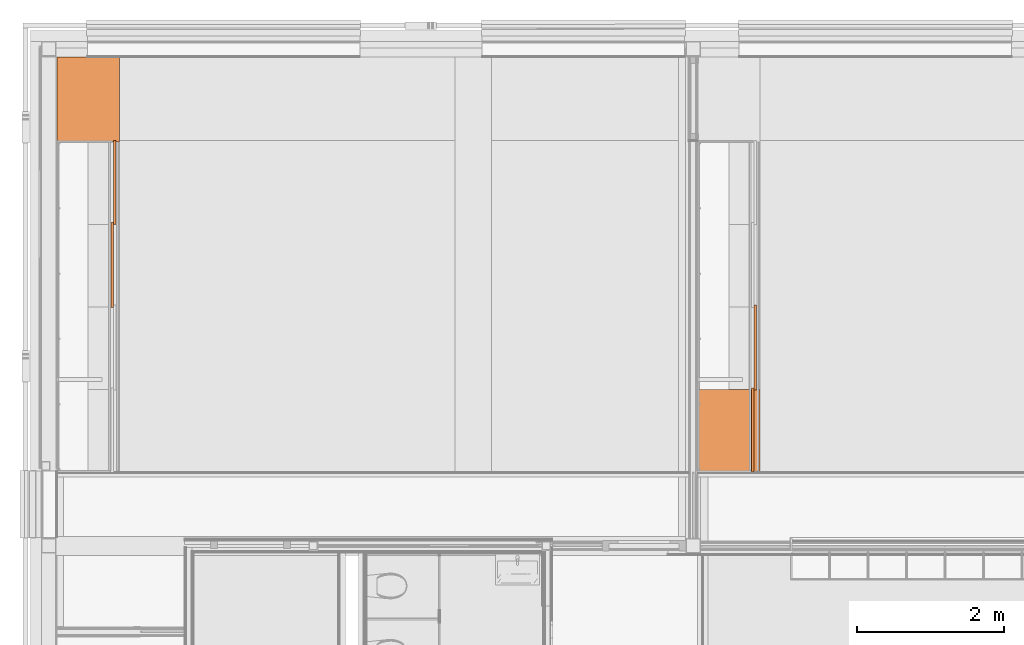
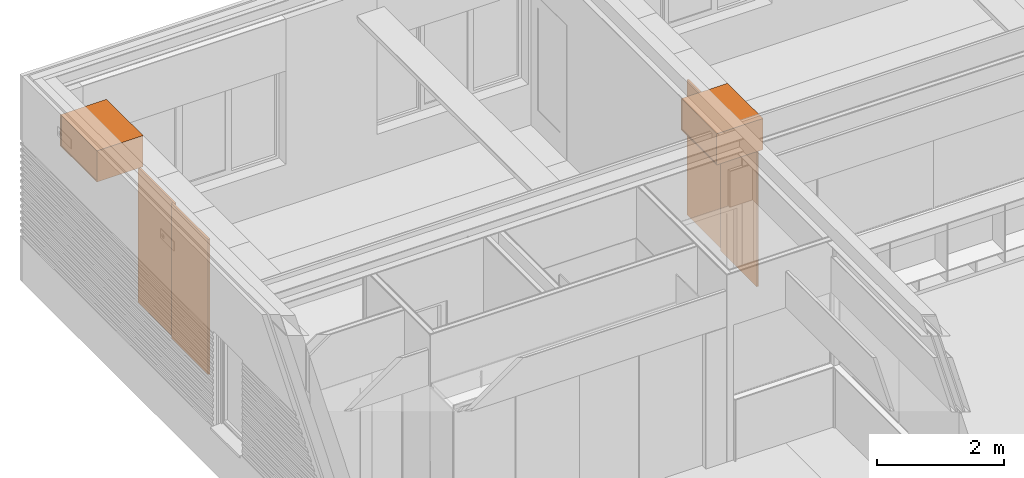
# One storey, part 122 of 137: 6 proxies.
"""IFC2X3 building model written with IfcOpenShell, lengths in millimetres."""

from ifc_helpers import new_model, entity, si_unit, converted_unit, derived_unit, money_unit, direction, frame, origin_with_axes, place, context, subcontext, project, spatial, faceted_brep, source, transform, mapped, type_object, type_shapes, element, save


model = new_model("IFC2X3")

# Units and contexts
model_context = context("Model", 3, precision=0.01, world=origin_with_axes(), true_north=direction((0.0, 1.0)))
body_context = subcontext(model_context, "Body", "Model", "MODEL_VIEW")
ifc_project = project(units=[si_unit("LENGTHUNIT", "METRE", prefix="MILLI"), si_unit("AREAUNIT", "SQUARE_METRE"), si_unit("VOLUMEUNIT", "CUBIC_METRE"), converted_unit("PLANEANGLEUNIT", "DEGREE", entity("IfcPlaneAngleMeasure", 0.0174532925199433), si_unit("PLANEANGLEUNIT", "RADIAN"), dimensions=[0, 0, 0, 0, 0, 0, 0]), money_unit("EUR"), converted_unit("TIMEUNIT", "Year", entity("IfcTimeMeasure", 31556926.0), si_unit("TIMEUNIT", "SECOND"), dimensions=[0, 0, 1, 0, 0, 0, 0]), si_unit("MASSUNIT", "GRAM", prefix="KILO"), si_unit("THERMODYNAMICTEMPERATUREUNIT", "DEGREE_CELSIUS"), si_unit("LUMINOUSINTENSITYUNIT", "LUMEN"), si_unit("ENERGYUNIT", "JOULE", prefix="MEGA"), derived_unit("THERMALCONDUCTANCEUNIT", [(si_unit("POWERUNIT", "WATT"), 1), (si_unit("LENGTHUNIT", "METRE"), -1), (si_unit("THERMODYNAMICTEMPERATUREUNIT", "KELVIN"), -1)]), derived_unit("SPECIFICHEATCAPACITYUNIT", [(si_unit("ENERGYUNIT", "JOULE"), 1), (si_unit("MASSUNIT", "GRAM", prefix="KILO"), -1), (si_unit("THERMODYNAMICTEMPERATUREUNIT", "KELVIN"), -1)]), derived_unit("MASSDENSITYUNIT", [(si_unit("MASSUNIT", "GRAM", prefix="KILO"), 1), (si_unit("VOLUMEUNIT", "CUBIC_METRE"), -1)])], contexts=[model_context])

# Site, building, storey
site_placement = place(None, origin_with_axes())
site = spatial("IfcSite", under=ifc_project, at=site_placement, Name="Site", CompositionType="ELEMENT")
building_placement = place(site_placement, origin_with_axes())
building = spatial("IfcBuilding", under=site, at=building_placement, Name="Naam gebouw", CompositionType="ELEMENT")
storey_placement = place(building_placement, frame((0.0, 0.0, 3960.0), z_axis=(0.0, 0.0, 1.0), x_axis=(1.0, 0.0, 0.0)))
storey = spatial("IfcBuildingStorey", under=building, at=storey_placement, Name="1e verdieping", CompositionType="ELEMENT", Elevation=3960.0)

# Proxies
building_element_proxy_type_1 = type_object("IfcBuildingElementProxyType", Name="Onderkast recht 26", PredefinedType="NOTDEFINED")
shared_shape_1 = source(origin_with_axes(), body_context, "Body", "Brep", [
    faceted_brep([(-1.0, -826.9999999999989, 1.0), (-1.0, -844.9999999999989, 1.000000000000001), (-1152.000152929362, -844.9999999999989, 1.000000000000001), (-1152.000152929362, -826.9999999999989, 1.0), (-1.0, -826.9999999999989, 599.0), (-1.0, -844.9999999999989, 599.0), (-1152.000152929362, -844.9999999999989, 599.0), (-1152.000152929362, -826.9999999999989, 599.0)], [[[0, 1, 2, 3]], [[4, 5, 1, 0]], [[1, 5, 6, 2]], [[3, 2, 6, 7]], [[0, 3, 7, 4]], [[7, 6, 5, 4]]]),
    faceted_brep([(-18.0, -826.9999999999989, 0.0), (-18.0, -826.9999999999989, 18.0), (-1135.000152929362, -826.9999999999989, 18.0), (-1135.000152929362, -826.9999999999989, 0.0), (-18.0, 0.0, 0.0), (-18.0, 0.0, 18.0), (-1135.000152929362, 0.0, 18.0), (-1135.000152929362, 0.0, 0.0)], [[[0, 1, 2, 3]], [[4, 5, 1, 0]], [[1, 5, 6, 2]], [[3, 2, 6, 7]], [[0, 3, 7, 4]], [[7, 6, 5, 4]]]),
    faceted_brep([(-18.0, -826.9999999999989, 582.0), (-18.0, -826.9999999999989, 600.0), (-1135.000152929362, -826.9999999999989, 600.0), (-1135.000152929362, -826.9999999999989, 582.0), (-18.0, 0.0, 582.0), (-18.0, 0.0, 600.0), (-1135.000152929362, 0.0, 600.0), (-1135.000152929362, 0.0, 582.0)], [[[0, 1, 2, 3]], [[4, 5, 1, 0]], [[1, 5, 6, 2]], [[3, 2, 6, 7]], [[0, 3, 7, 4]], [[7, 6, 5, 4]]]),
    faceted_brep([(0.0, 0.0, 0.0), (0.0, 0.0, 600.0), (0.0, -826.9999999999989, 600.0), (0.0, -826.9999999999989, 0.0), (-18.0, 0.0, 0.0), (-18.0, 0.0, 600.0), (-18.0, -826.9999999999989, 600.0), (-18.0, -826.9999999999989, 0.0)], [[[0, 1, 2, 3]], [[4, 5, 1, 0]], [[1, 5, 6, 2]], [[3, 2, 6, 7]], [[0, 3, 7, 4]], [[7, 6, 5, 4]]]),
    faceted_brep([(-1153.000152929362, -826.9999999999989, 0.0), (-1153.000152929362, -826.9999999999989, 600.0), (-1153.000152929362, 0.0, 600.0), (-1153.000152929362, 0.0, 0.0), (-1135.000152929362, -826.9999999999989, 0.0), (-1135.000152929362, -826.9999999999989, 600.0), (-1135.000152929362, 0.0, 600.0), (-1135.000152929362, 0.0, 0.0)], [[[0, 1, 2, 3]], [[4, 5, 1, 0]], [[1, 5, 6, 2]], [[3, 2, 6, 7]], [[0, 3, 7, 4]], [[7, 6, 5, 4]]]),
    faceted_brep([(-1135.000152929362, -9.0, 18.0), (-1135.000152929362, -9.0, 582.0), (-18.00000000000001, -9.0, 582.0), (-18.00000000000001, -9.0, 18.0), (-1135.000152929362, -18.0, 18.0), (-1135.000152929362, -18.0, 582.0), (-18.00000000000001, -18.0, 582.0), (-18.00000000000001, -18.0, 18.0)], [[[0, 1, 2, 3]], [[4, 5, 1, 0]], [[1, 5, 6, 2]], [[3, 2, 6, 7]], [[0, 3, 7, 4]], [[7, 6, 5, 4]]]),
])
proxy_1_placement = place(storey_placement, frame((214.0000000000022, 28961.0, 2600.0), z_axis=(0.0, 0.0, 1.0), x_axis=(0.0, 1.0, 0.0)))
element("IfcBuildingElementProxy", 1, at=proxy_1_placement, inside=storey, type_object=building_element_proxy_type_1, Name="_Leeg", context=body_context, shape_type="MappedRepresentation", body=[
    mapped(shared_shape_1, transform((0.0, 0.0, 0.0))),
])
building_element_proxy_type_2 = type_object("IfcBuildingElementProxyType", Name="gevelbekleding", PredefinedType="NOTDEFINED")
shared_shape_2 = source(origin_with_axes(), body_context, "Body", "Brep", [
    faceted_brep([(577.5, 0.0, 0.0), (577.5, -35.0, 0.0), (572.5, -35.0, 0.0), (572.5, 0.0, 0.0), (577.5, 0.0, 2600.0), (577.5, -35.0, 2600.0), (572.5, -35.0, 2600.0), (572.5, 0.0, 2600.0)], [[[0, 1, 2, 3]], [[4, 5, 1, 0]], [[1, 5, 6, 2]], [[3, 2, 6, 7]], [[0, 3, 7, 4]], [[7, 6, 5, 4]]]),
    faceted_brep([(-577.5, 0.0, 0.0), (-577.5, -35.0, 0.0), (-577.5, -35.0, 2600.0), (-577.5, 0.0, 2600.0), (-572.5000000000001, 0.0, 0.0), (-572.5000000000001, -35.0, 0.0), (-572.5000000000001, -35.0, 2600.0), (-572.5000000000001, 0.0, 2600.0)], [[[0, 1, 2, 3]], [[4, 5, 1, 0]], [[1, 5, 6, 2]], [[3, 2, 6, 7]], [[0, 3, 7, 4]], [[7, 6, 5, 4]]]),
    faceted_brep([(577.5, 0.0, 0.0), (577.5, -35.0, 0.0), (-577.5, -35.0, 0.0), (-577.5, 0.0, 0.0), (577.5, 0.0, 2600.0), (577.5, -35.0, 2600.0), (-577.5, -35.0, 2600.0), (-577.5, 0.0, 2600.0)], [[[0, 1, 2, 3]], [[4, 5, 1, 0]], [[1, 5, 6, 2]], [[3, 2, 6, 7]], [[0, 3, 7, 4]], [[7, 6, 5, 4]]]),
])
proxy_2_placement = place(storey_placement, frame((9712.500000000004, 25592.99991880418, 0.0), z_axis=(0.0, 0.0, 1.0), x_axis=(0.0, -1.0, 0.0)))
element("IfcBuildingElementProxy", 2, at=proxy_2_placement, inside=storey, type_object=building_element_proxy_type_2, Name="_-", context=body_context, shape_type="MappedRepresentation", body=[
    mapped(shared_shape_2, transform((577.5000000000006, 0.0, 0.0))),
])
shared_shape_3 = source(origin_with_axes(), body_context, "Body", "Brep", [
    faceted_brep([(-570.0, 0.0, 0.0), (-565.0, 0.0, 0.0), (-565.0, -35.0, 0.0), (-570.0, -35.0, 0.0), (-570.0, 0.0, 2600.0), (-565.0, 0.0, 2600.0), (-565.0, -35.0, 2600.0), (-570.0, -35.0, 2600.0)], [[[0, 1, 2, 3]], [[0, 4, 5, 1]], [[1, 5, 6, 2]], [[3, 2, 6, 7]], [[4, 0, 3, 7]], [[5, 4, 7, 6]]]),
    faceted_brep([(570.0, 0.0, 0.0), (570.0, 0.0, 2600.0), (570.0, -35.0, 2600.0), (570.0, -35.0, 0.0), (565.0000000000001, 0.0, 0.0), (565.0000000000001, 0.0, 2600.0), (565.0000000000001, -35.0, 2600.0), (565.0000000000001, -35.0, 0.0)], [[[0, 1, 2, 3]], [[0, 4, 5, 1]], [[1, 5, 6, 2]], [[3, 2, 6, 7]], [[4, 0, 3, 7]], [[5, 4, 7, 6]]]),
    faceted_brep([(-570.0, 0.0, 0.0), (570.0, 0.0, 0.0), (570.0, -35.0, 0.0), (-570.0, -35.0, 0.0), (-570.0, 0.0, 2600.0), (570.0, 0.0, 2600.0), (570.0, -35.0, 2600.0), (-570.0, -35.0, 2600.0)], [[[0, 1, 2, 3]], [[0, 4, 5, 1]], [[1, 5, 6, 2]], [[3, 2, 6, 7]], [[4, 0, 3, 7]], [[5, 4, 7, 6]]]),
])
proxy_3_placement = place(storey_placement, frame((9712.500000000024, 24467.99984810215, 0.0), z_axis=(0.0, 0.0, 1.0), x_axis=(0.0, -1.0, 0.0)))
element("IfcBuildingElementProxy", 3, at=proxy_3_placement, inside=storey, type_object=building_element_proxy_type_2, Name="_-", context=body_context, shape_type="MappedRepresentation", body=[
    mapped(shared_shape_3, transform((570.0000000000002, -34.99999999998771, 0.0))),
])
shared_shape_4 = source(origin_with_axes(), body_context, "Body", "Brep", [
    faceted_brep([(570.0000707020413, 0.0, 0.0), (570.0000707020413, -35.0, 0.0), (565.0000707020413, -35.0, 0.0), (565.0000707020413, 0.0, 0.0), (570.0000707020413, 0.0, 2600.0), (570.0000707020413, -35.0, 2600.0), (565.0000707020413, -35.0, 2600.0), (565.0000707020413, 0.0, 2600.0)], [[[0, 1, 2, 3]], [[4, 5, 1, 0]], [[1, 5, 6, 2]], [[3, 2, 6, 7]], [[0, 3, 7, 4]], [[7, 6, 5, 4]]]),
    faceted_brep([(-570.0000707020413, 0.0, 0.0), (-570.0000707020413, -35.0, 0.0), (-570.0000707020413, -35.0, 2600.0), (-570.0000707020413, 0.0, 2600.0), (-565.0000707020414, 0.0, 0.0), (-565.0000707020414, -35.0, 0.0), (-565.0000707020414, -35.0, 2600.0), (-565.0000707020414, 0.0, 2600.0)], [[[0, 1, 2, 3]], [[4, 5, 1, 0]], [[1, 5, 6, 2]], [[3, 2, 6, 7]], [[0, 3, 7, 4]], [[7, 6, 5, 4]]]),
    faceted_brep([(570.0000707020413, 0.0, 0.0), (570.0000707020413, -35.0, 0.0), (-570.0000707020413, -35.0, 0.0), (-570.0000707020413, 0.0, 0.0), (570.0000707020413, 0.0, 2600.0), (570.0000707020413, -35.0, 2600.0), (-570.0000707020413, -35.0, 2600.0), (-570.0000707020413, 0.0, 2600.0)], [[[0, 1, 2, 3]], [[4, 5, 1, 0]], [[1, 5, 6, 2]], [[3, 2, 6, 7]], [[0, 3, 7, 4]], [[7, 6, 5, 4]]]),
])
proxy_4_placement = place(storey_placement, frame((1014.000000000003, 27827.99984229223, 0.0), z_axis=(0.0, 0.0, 1.0), x_axis=(0.0, -1.0, 0.0)))
element("IfcBuildingElementProxy", 4, at=proxy_4_placement, inside=storey, type_object=building_element_proxy_type_2, Name="_-", context=body_context, shape_type="MappedRepresentation", body=[
    mapped(shared_shape_4, transform((570.00007070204, 0.0, 0.0))),
])
shared_shape_5 = source(origin_with_axes(), body_context, "Body", "Brep", [
    faceted_brep([(-577.5, 0.0, 0.0), (-572.5, 0.0, 0.0), (-572.5, -35.0, 0.0), (-577.5, -35.0, 0.0), (-577.5, 0.0, 2600.0), (-572.5, 0.0, 2600.0), (-572.5, -35.0, 2600.0), (-577.5, -35.0, 2600.0)], [[[0, 1, 2, 3]], [[0, 4, 5, 1]], [[1, 5, 6, 2]], [[3, 2, 6, 7]], [[4, 0, 3, 7]], [[5, 4, 7, 6]]]),
    faceted_brep([(577.5, 0.0, 0.0), (577.5, 0.0, 2600.0), (577.5, -35.0, 2600.0), (577.5, -35.0, 0.0), (572.5000000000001, 0.0, 0.0), (572.5000000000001, 0.0, 2600.0), (572.5000000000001, -35.0, 2600.0), (572.5000000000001, -35.0, 0.0)], [[[0, 1, 2, 3]], [[0, 4, 5, 1]], [[1, 5, 6, 2]], [[3, 2, 6, 7]], [[4, 0, 3, 7]], [[5, 4, 7, 6]]]),
    faceted_brep([(-577.5, 0.0, 0.0), (577.5, 0.0, 0.0), (577.5, -35.0, 0.0), (-577.5, -35.0, 0.0), (-577.5, 0.0, 2600.0), (577.5, 0.0, 2600.0), (577.5, -35.0, 2600.0), (-577.5, -35.0, 2600.0)], [[[0, 1, 2, 3]], [[0, 4, 5, 1]], [[1, 5, 6, 2]], [[3, 2, 6, 7]], [[4, 0, 3, 7]], [[5, 4, 7, 6]]]),
])
type_shapes(building_element_proxy_type_2, [shared_shape_2, shared_shape_3, shared_shape_4, shared_shape_5])
proxy_5_placement = place(storey_placement, frame((1014.00000000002, 26717.99977159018, 0.0), z_axis=(0.0, 0.0, 1.0), x_axis=(0.0, -1.0, 0.0)))
element("IfcBuildingElementProxy", 5, at=proxy_5_placement, inside=storey, type_object=building_element_proxy_type_2, Name="_-", context=body_context, shape_type="MappedRepresentation", body=[
    mapped(shared_shape_5, transform((577.499999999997, -34.99999999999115, 0.0))),
])
shared_shape_6 = source(origin_with_axes(), body_context, "Body", "Brep", [
    faceted_brep([(-1.0, -827.0, 1.0), (-1.0, -845.0, 1.000000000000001), (-1119.000141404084, -845.0, 1.000000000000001), (-1119.000141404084, -827.0, 1.0), (-1.0, -827.0, 599.0), (-1.0, -845.0, 599.0), (-1119.000141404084, -845.0, 599.0), (-1119.000141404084, -827.0, 599.0)], [[[0, 1, 2, 3]], [[4, 5, 1, 0]], [[1, 5, 6, 2]], [[3, 2, 6, 7]], [[0, 3, 7, 4]], [[7, 6, 5, 4]]]),
    faceted_brep([(-18.0, -827.0, 0.0), (-18.0, -827.0, 18.0), (-1102.000141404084, -827.0, 18.0), (-1102.000141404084, -827.0, 0.0), (-18.0, 0.0, 0.0), (-18.0, 0.0, 18.0), (-1102.000141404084, 0.0, 18.0), (-1102.000141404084, 0.0, 0.0)], [[[0, 1, 2, 3]], [[4, 5, 1, 0]], [[1, 5, 6, 2]], [[3, 2, 6, 7]], [[0, 3, 7, 4]], [[7, 6, 5, 4]]]),
    faceted_brep([(-18.0, -827.0, 582.0), (-18.0, -827.0, 600.0), (-1102.000141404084, -827.0, 600.0), (-1102.000141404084, -827.0, 582.0), (-18.0, 0.0, 582.0), (-18.0, 0.0, 600.0), (-1102.000141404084, 0.0, 600.0), (-1102.000141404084, 0.0, 582.0)], [[[0, 1, 2, 3]], [[4, 5, 1, 0]], [[1, 5, 6, 2]], [[3, 2, 6, 7]], [[0, 3, 7, 4]], [[7, 6, 5, 4]]]),
    faceted_brep([(0.0, 0.0, 0.0), (0.0, 0.0, 600.0), (0.0, -827.0, 600.0), (0.0, -827.0, 0.0), (-18.0, 0.0, 0.0), (-18.0, 0.0, 600.0), (-18.0, -827.0, 600.0), (-18.0, -827.0, 0.0)], [[[0, 1, 2, 3]], [[4, 5, 1, 0]], [[1, 5, 6, 2]], [[3, 2, 6, 7]], [[0, 3, 7, 4]], [[7, 6, 5, 4]]]),
    faceted_brep([(-1120.000141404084, -827.0, 0.0), (-1120.000141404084, -827.0, 600.0), (-1120.000141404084, 0.0, 600.0), (-1120.000141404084, 0.0, 0.0), (-1102.000141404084, -827.0, 0.0), (-1102.000141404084, -827.0, 600.0), (-1102.000141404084, 0.0, 600.0), (-1102.000141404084, 0.0, 0.0)], [[[0, 1, 2, 3]], [[4, 5, 1, 0]], [[1, 5, 6, 2]], [[3, 2, 6, 7]], [[0, 3, 7, 4]], [[7, 6, 5, 4]]]),
    faceted_brep([(-1102.000141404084, -9.0, 18.0), (-1102.000141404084, -9.0, 582.0), (-18.00000000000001, -9.0, 582.0), (-18.00000000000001, -9.0, 18.0), (-1102.000141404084, -18.0, 18.0), (-1102.000141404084, -18.0, 582.0), (-18.00000000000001, -18.0, 582.0), (-18.00000000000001, -18.0, 18.0)], [[[0, 1, 2, 3]], [[4, 5, 1, 0]], [[1, 5, 6, 2]], [[3, 2, 6, 7]], [[0, 3, 7, 4]], [[7, 6, 5, 4]]]),
])
type_shapes(building_element_proxy_type_1, [shared_shape_1, shared_shape_6])
proxy_6_placement = place(storey_placement, frame((8912.500000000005, 24447.99942285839, 2600.0), z_axis=(0.0, 0.0, 1.0), x_axis=(0.0, 1.0, 0.0)))
element("IfcBuildingElementProxy", 6, at=proxy_6_placement, inside=storey, type_object=building_element_proxy_type_1, Name="_Leeg", context=body_context, shape_type="MappedRepresentation", body=[
    mapped(shared_shape_6, transform((0.0, 0.0, 0.0))),
])

save(model, "model.ifc")
